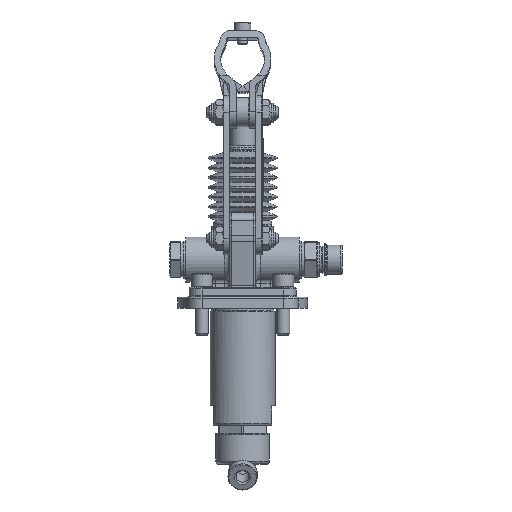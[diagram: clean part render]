
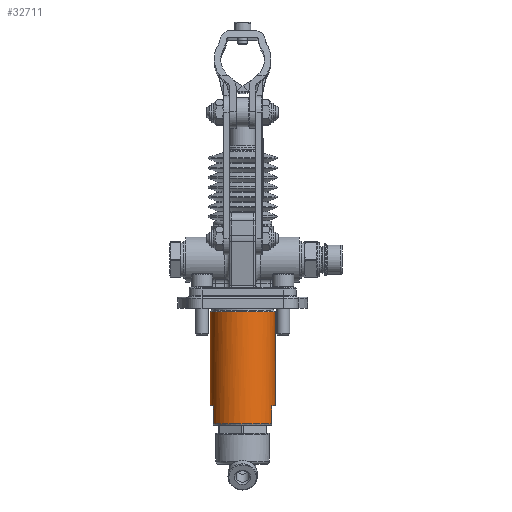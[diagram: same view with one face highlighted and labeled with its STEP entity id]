
A CAD part, left-side view. The second image highlights one B-rep face of the part: STEP entity #32711.
In plain terms, the highlighted cylindrical face has radius 20 mm (diameter 40 mm), a full revolution.
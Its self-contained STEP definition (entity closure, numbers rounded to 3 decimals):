
#32314=CARTESIAN_POINT('',(50.282,16.,-61.));
#32315=VERTEX_POINT('',#32314);
#32316=CARTESIAN_POINT('',(67.718,16.,-61.));
#32317=VERTEX_POINT('',#32316);
#32318=CARTESIAN_POINT('',(59.,34.,-61.));
#32319=DIRECTION('',(0.0,0.0,1.0));
#32320=DIRECTION('',(1.0,0.0,0.0));
#32321=AXIS2_PLACEMENT_3D('',#32318,#32319,#32320);
#32322=CIRCLE('',#32321,20.0);
#32323=EDGE_CURVE('',#32315,#32317,#32322,.T.);
#32339=CARTESIAN_POINT('',(67.718,16.,-72.));
#32340=VERTEX_POINT('',#32339);
#32356=CARTESIAN_POINT('',(67.718,16.,-61.));
#32357=DIRECTION('',(0.0,0.0,-1.0));
#32358=VECTOR('',#32357,11.0);
#32359=LINE('',#32356,#32358);
#32360=EDGE_CURVE('',#32317,#32340,#32359,.T.);
#32363=CARTESIAN_POINT('',(50.282,16.,-72.));
#32364=VERTEX_POINT('',#32363);
#32365=CARTESIAN_POINT('',(50.282,16.,-72.));
#32366=DIRECTION('',(0.0,0.0,1.0));
#32367=VECTOR('',#32366,11.0);
#32368=LINE('',#32365,#32367);
#32369=EDGE_CURVE('',#32364,#32315,#32368,.T.);
#32400=CARTESIAN_POINT('',(50.282,52.,-61.));
#32401=VERTEX_POINT('',#32400);
#32402=CARTESIAN_POINT('',(50.282,52.,-72.));
#32403=VERTEX_POINT('',#32402);
#32404=CARTESIAN_POINT('',(50.282,52.,-61.));
#32405=DIRECTION('',(0.0,0.0,-1.0));
#32406=VECTOR('',#32405,11.0);
#32407=LINE('',#32404,#32406);
#32408=EDGE_CURVE('',#32401,#32403,#32407,.T.);
#32410=CARTESIAN_POINT('',(67.718,52.,-61.));
#32411=VERTEX_POINT('',#32410);
#32418=CARTESIAN_POINT('',(67.718,52.,-72.));
#32419=VERTEX_POINT('',#32418);
#32420=CARTESIAN_POINT('',(67.718,52.,-72.));
#32421=DIRECTION('',(0.0,0.0,1.0));
#32422=VECTOR('',#32421,11.0);
#32423=LINE('',#32420,#32422);
#32424=EDGE_CURVE('',#32419,#32411,#32423,.T.);
#32470=CARTESIAN_POINT('',(59.,34.,-61.));
#32471=DIRECTION('',(0.0,0.0,1.0));
#32472=DIRECTION('',(1.0,0.0,0.0));
#32473=AXIS2_PLACEMENT_3D('',#32470,#32471,#32472);
#32474=CIRCLE('',#32473,20.0);
#32475=EDGE_CURVE('',#32411,#32401,#32474,.T.);
#32487=CARTESIAN_POINT('',(59.,34.,-72.));
#32488=DIRECTION('',(0.0,0.0,-1.0));
#32489=DIRECTION('',(1.0,0.0,0.0));
#32490=AXIS2_PLACEMENT_3D('',#32487,#32488,#32489);
#32491=CIRCLE('',#32490,20.0);
#32492=EDGE_CURVE('',#32364,#32403,#32491,.T.);
#32675=CARTESIAN_POINT('',(59.,34.,-72.));
#32676=DIRECTION('',(0.0,0.0,-1.0));
#32677=DIRECTION('',(1.0,0.0,0.0));
#32678=AXIS2_PLACEMENT_3D('',#32675,#32676,#32677);
#32679=CIRCLE('',#32678,20.0);
#32680=EDGE_CURVE('',#32419,#32340,#32679,.T.);
#32685=CARTESIAN_POINT('',(59.,34.,-73.));
#32686=DIRECTION('',(0.,0.0,1.0));
#32687=DIRECTION('',(1.0,0.0,0.0));
#32688=AXIS2_PLACEMENT_3D('',#32685,#32686,#32687);
#32689=CYLINDRICAL_SURFACE('',#32688,20.0);
#32690=ORIENTED_EDGE('',*,*,#32360,.T.);
#32691=ORIENTED_EDGE('',*,*,#32680,.F.);
#32692=ORIENTED_EDGE('',*,*,#32424,.T.);
#32693=ORIENTED_EDGE('',*,*,#32475,.T.);
#32694=ORIENTED_EDGE('',*,*,#32408,.T.);
#32695=ORIENTED_EDGE('',*,*,#32492,.F.);
#32696=ORIENTED_EDGE('',*,*,#32369,.T.);
#32697=ORIENTED_EDGE('',*,*,#32323,.T.);
#32698=EDGE_LOOP('',(#32690,#32691,#32692,#32693,#32694,#32695,#32696,#32697));
#32699=FACE_OUTER_BOUND('',#32698,.T.);
#32700=CARTESIAN_POINT('',(39.,34.,-3.));
#32701=VERTEX_POINT('',#32700);
#32702=CARTESIAN_POINT('',(59.,34.,-3.));
#32703=DIRECTION('',(0.0,0.0,1.0));
#32704=DIRECTION('',(1.0,0.0,0.0));
#32705=AXIS2_PLACEMENT_3D('',#32702,#32703,#32704);
#32706=CIRCLE('',#32705,20.0);
#32707=EDGE_CURVE('',#32701,#32701,#32706,.T.);
#32708=ORIENTED_EDGE('',*,*,#32707,.F.);
#32709=EDGE_LOOP('',(#32708));
#32710=FACE_BOUND('',#32709,.T.);
#32711=ADVANCED_FACE('',(#32699,#32710),#32689,.T.);
